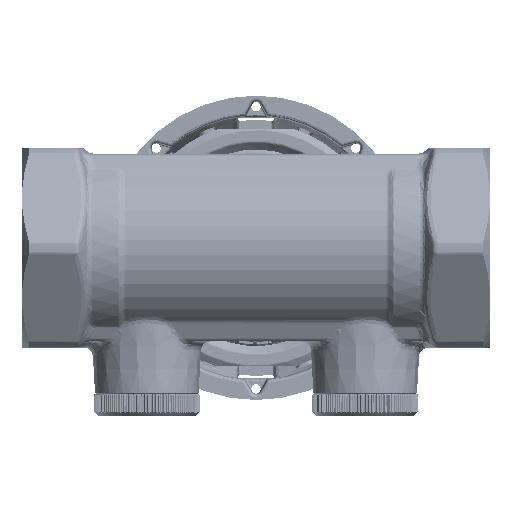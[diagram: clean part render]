
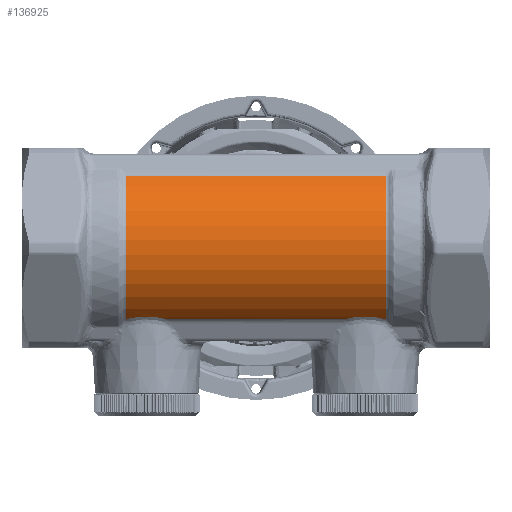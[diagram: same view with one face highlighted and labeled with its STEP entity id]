
A CAD part, front view. The second image highlights one B-rep face of the part: STEP entity #136925.
In plain terms, the highlighted cylindrical face has radius 14.5 mm (diameter 29 mm), a partial arc.
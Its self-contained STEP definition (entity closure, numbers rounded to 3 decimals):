
#1548=CYLINDRICAL_SURFACE('',#150420,14.5);
#14529=LINE('',#301467,#21065);
#14536=LINE('',#302187,#21072);
#14537=LINE('',#302196,#21073);
#14538=LINE('',#302202,#21074);
#21065=VECTOR('',#183149,10.);
#21072=VECTOR('',#183268,10.);
#21073=VECTOR('',#183271,10.);
#21074=VECTOR('',#183272,10.);
#30371=FACE_OUTER_BOUND('',#38380,.T.);
#38380=EDGE_LOOP('',(#118594,#118595,#118596,#118597,#118598,#118599,#118600,
#118601));
#42389=B_SPLINE_CURVE_WITH_KNOTS('',3,(#302190,#302191,#302192,#302193,
#302194),.UNSPECIFIED.,.F.,.F.,(4,1,4),(-0.691,-0.296,
0.),.UNSPECIFIED.);
#42390=B_SPLINE_CURVE_WITH_KNOTS('',3,(#302197,#302198,#302199,#302200,
#302201),.UNSPECIFIED.,.F.,.F.,(4,1,4),(-0.691,-0.296,
0.),.UNSPECIFIED.);
#48986=CIRCLE('',#150336,14.5);
#49029=CIRCLE('',#150397,14.5);
#61447=VERTEX_POINT('',#301125);
#61449=VERTEX_POINT('',#301131);
#61475=VERTEX_POINT('',#301465);
#61505=VERTEX_POINT('',#301852);
#61509=VERTEX_POINT('',#301867);
#61527=VERTEX_POINT('',#302177);
#61529=VERTEX_POINT('',#302189);
#61530=VERTEX_POINT('',#302195);
#80594=EDGE_CURVE('',#61447,#61449,#48986,.T.);
#80634=EDGE_CURVE('',#61475,#61447,#14529,.T.);
#80682=EDGE_CURVE('',#61505,#61509,#49029,.T.);
#80714=EDGE_CURVE('',#61509,#61527,#14536,.T.);
#80715=EDGE_CURVE('',#61529,#61475,#42389,.T.);
#80716=EDGE_CURVE('',#61530,#61529,#14537,.T.);
#80717=EDGE_CURVE('',#61527,#61530,#42390,.T.);
#80718=EDGE_CURVE('',#61449,#61505,#14538,.T.);
#118594=ORIENTED_EDGE('',*,*,#80594,.F.);
#118595=ORIENTED_EDGE('',*,*,#80634,.F.);
#118596=ORIENTED_EDGE('',*,*,#80715,.F.);
#118597=ORIENTED_EDGE('',*,*,#80716,.F.);
#118598=ORIENTED_EDGE('',*,*,#80717,.F.);
#118599=ORIENTED_EDGE('',*,*,#80714,.F.);
#118600=ORIENTED_EDGE('',*,*,#80682,.F.);
#118601=ORIENTED_EDGE('',*,*,#80718,.F.);
#136925=ADVANCED_FACE('',(#30371),#1548,.T.);
#150336=AXIS2_PLACEMENT_3D('',#301135,#183089,#183090);
#150397=AXIS2_PLACEMENT_3D('',#301871,#183221,#183222);
#150420=AXIS2_PLACEMENT_3D('',#302188,#183269,#183270);
#183089=DIRECTION('center_axis',(-1.,0.,0.));
#183090=DIRECTION('ref_axis',(0.,-1.,0.));
#183149=DIRECTION('',(-1.,0.,0.));
#183221=DIRECTION('center_axis',(1.,0.,0.));
#183222=DIRECTION('ref_axis',(0.,-1.,0.));
#183268=DIRECTION('',(-1.,0.,0.));
#183269=DIRECTION('center_axis',(1.,0.,0.));
#183270=DIRECTION('ref_axis',(0.,-1.,0.));
#183271=DIRECTION('',(-1.,0.,0.));
#183272=DIRECTION('',(1.,0.,0.));
#301125=CARTESIAN_POINT('',(-20.866,-8.899,-11.448));
#301131=CARTESIAN_POINT('',(-20.866,-8.899,11.448));
#301135=CARTESIAN_POINT('Origin',(-20.866,0.,
0.));
#301465=CARTESIAN_POINT('',(-20.845,-8.899,-11.448));
#301467=CARTESIAN_POINT('',(0.,-8.899,-11.448));
#301852=CARTESIAN_POINT('',(20.866,-8.899,11.448));
#301867=CARTESIAN_POINT('',(20.866,-8.899,-11.448));
#301871=CARTESIAN_POINT('Origin',(20.866,0.,
0.));
#302177=CARTESIAN_POINT('',(20.845,-8.899,-11.448));
#302187=CARTESIAN_POINT('',(0.,-8.899,-11.448));
#302188=CARTESIAN_POINT('Origin',(0.,0.,0.));
#302189=CARTESIAN_POINT('',(-14.155,-8.899,-11.448));
#302190=CARTESIAN_POINT('Ctrl Pts',(-14.155,-8.899,
-11.448));
#302191=CARTESIAN_POINT('Ctrl Pts',(-15.354,-9.286,
-11.147));
#302192=CARTESIAN_POINT('Ctrl Pts',(-17.679,-9.61,
-10.856));
#302193=CARTESIAN_POINT('Ctrl Pts',(-19.945,-9.19,
-11.222));
#302194=CARTESIAN_POINT('Ctrl Pts',(-20.845,-8.899,
-11.448));
#302195=CARTESIAN_POINT('',(14.155,-8.899,-11.448));
#302196=CARTESIAN_POINT('',(0.,-8.899,-11.448));
#302197=CARTESIAN_POINT('Ctrl Pts',(20.845,-8.899,
-11.448));
#302198=CARTESIAN_POINT('Ctrl Pts',(19.646,-9.286,
-11.147));
#302199=CARTESIAN_POINT('Ctrl Pts',(17.321,-9.61,
-10.856));
#302200=CARTESIAN_POINT('Ctrl Pts',(15.055,-9.19,
-11.222));
#302201=CARTESIAN_POINT('Ctrl Pts',(14.155,-8.899,
-11.448));
#302202=CARTESIAN_POINT('',(0.,-8.899,11.448));
